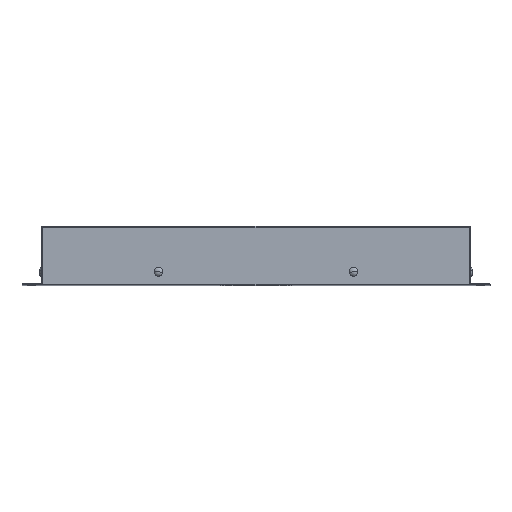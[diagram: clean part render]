
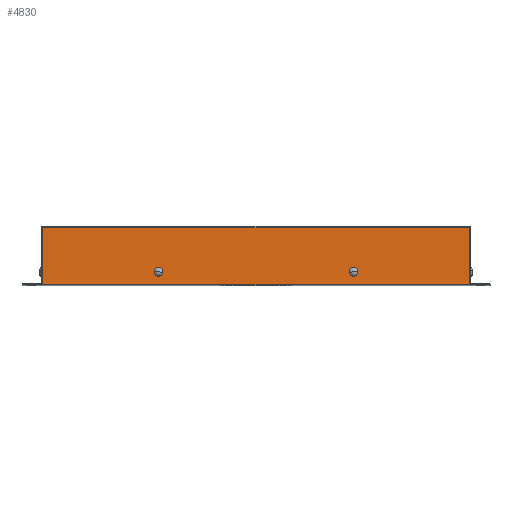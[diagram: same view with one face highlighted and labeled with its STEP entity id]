
A CAD part, top view. The second image highlights one B-rep face of the part: STEP entity #4830.
In plain terms, the highlighted planar face has unit normal (0, 0, 1).
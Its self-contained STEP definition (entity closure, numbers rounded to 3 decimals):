
#118 = DIRECTION ( 'NONE',  ( -0.188, 0.982, 0. ) ) ;
#123 = DIRECTION ( 'NONE',  ( 0., 0., 1. ) ) ;
#126 = CARTESIAN_POINT ( 'NONE',  ( -164., 0., 265. ) ) ;
#163 = VECTOR ( 'NONE', #4672, 1000. ) ;
#165 = CARTESIAN_POINT ( 'NONE',  ( 75., 10., 265. ) ) ;
#205 = LINE ( 'NONE', #4687, #163 ) ;
#206 = ORIENTED_EDGE ( 'NONE', *, *, #313, .F. ) ;
#227 = CARTESIAN_POINT ( 'NONE',  ( -165., 0., 265. ) ) ;
#239 = ORIENTED_EDGE ( 'NONE', *, *, #1805, .T. ) ;
#313 = EDGE_CURVE ( 'NONE', #4732, #4707, #3110, .T. ) ;
#325 = DIRECTION ( 'NONE',  ( 0., -1., 0. ) ) ;
#328 = PLANE ( 'NONE',  #2709 ) ;
#381 = DIRECTION ( 'NONE',  ( 0., 0., 1. ) ) ;
#415 = CARTESIAN_POINT ( 'NONE',  ( -165., 0., 265. ) ) ;
#820 = DIRECTION ( 'NONE',  ( -0.188, -0.982, 0. ) ) ;
#848 = DIRECTION ( 'NONE',  ( 0., 0., 1. ) ) ;
#886 = CARTESIAN_POINT ( 'NONE',  ( -75., 10., 265. ) ) ;
#1048 = CARTESIAN_POINT ( 'NONE',  ( -75.649, 6.612, 265. ) ) ;
#1193 = CARTESIAN_POINT ( 'NONE',  ( -74.351, 13.388, 265. ) ) ;
#1198 = VERTEX_POINT ( 'NONE', #2826 ) ;
#1337 = CARTESIAN_POINT ( 'NONE',  ( 74.351, 13.388, 265. ) ) ;
#1354 = EDGE_CURVE ( 'NONE', #5539, #3666, #205, .T. ) ;
#1688 = EDGE_CURVE ( 'NONE', #4707, #4732, #5762, .T. ) ;
#1762 = EDGE_CURVE ( 'NONE', #1198, #3451, #5694, .T. ) ;
#1784 = EDGE_CURVE ( 'NONE', #3666, #5949, #5656, .T. ) ;
#1795 = ORIENTED_EDGE ( 'NONE', *, *, #1688, .F. ) ;
#1805 = EDGE_CURVE ( 'NONE', #5949, #2235, #5619, .T. ) ;
#1894 = EDGE_CURVE ( 'NONE', #2235, #5539, #5568, .T. ) ;
#1986 = CARTESIAN_POINT ( 'NONE',  ( 164., 0., 265. ) ) ;
#1990 = FACE_BOUND ( 'NONE', #3721, .T. ) ;
#1993 = FACE_OUTER_BOUND ( 'NONE', #4631, .T. ) ;
#1999 = FACE_BOUND ( 'NONE', #4164, .T. ) ;
#2190 = DIRECTION ( 'NONE',  ( 1., 0., 0. ) ) ;
#2235 = VERTEX_POINT ( 'NONE', #3347 ) ;
#2709 = AXIS2_PLACEMENT_3D ( 'NONE', #415, #381, #325 ) ;
#2826 = CARTESIAN_POINT ( 'NONE',  ( 75.649, 6.612, 265. ) ) ;
#2937 = CARTESIAN_POINT ( 'NONE',  ( 164., 0., 265. ) ) ;
#3110 = CIRCLE ( 'NONE', #5459, 3.45 ) ;
#3287 = ORIENTED_EDGE ( 'NONE', *, *, #1354, .T. ) ;
#3347 = CARTESIAN_POINT ( 'NONE',  ( 164., 44., 265. ) ) ;
#3429 = CIRCLE ( 'NONE', #4378, 3.45 ) ;
#3451 = VERTEX_POINT ( 'NONE', #1337 ) ;
#3592 = AXIS2_PLACEMENT_3D ( 'NONE', #886, #848, #820 ) ;
#3666 = VERTEX_POINT ( 'NONE', #126 ) ;
#3721 = EDGE_LOOP ( 'NONE', ( #206, #1795 ) ) ;
#3786 = DIRECTION ( 'NONE',  ( -1., 0., 0. ) ) ;
#3864 = DIRECTION ( 'NONE',  ( -0.188, 0.982, 0. ) ) ;
#3872 = DIRECTION ( 'NONE',  ( 0., 0., 1. ) ) ;
#3891 = CARTESIAN_POINT ( 'NONE',  ( 75., 10., 265. ) ) ;
#4164 = EDGE_LOOP ( 'NONE', ( #4884, #4442 ) ) ;
#4330 = EDGE_CURVE ( 'NONE', #3451, #1198, #3429, .T. ) ;
#4370 = DIRECTION ( 'NONE',  ( 0., 1., 0. ) ) ;
#4375 = DIRECTION ( 'NONE',  ( -0.188, -0.982, 0. ) ) ;
#4378 = AXIS2_PLACEMENT_3D ( 'NONE', #3891, #3872, #3864 ) ;
#4380 = DIRECTION ( 'NONE',  ( 0., 0., 1. ) ) ;
#4395 = CARTESIAN_POINT ( 'NONE',  ( -75., 10., 265. ) ) ;
#4442 = ORIENTED_EDGE ( 'NONE', *, *, #1762, .F. ) ;
#4631 = EDGE_LOOP ( 'NONE', ( #5390, #239, #5478, #3287 ) ) ;
#4672 = DIRECTION ( 'NONE',  ( 0., -1., 0. ) ) ;
#4687 = CARTESIAN_POINT ( 'NONE',  ( -164., 0., 265. ) ) ;
#4707 = VERTEX_POINT ( 'NONE', #1193 ) ;
#4732 = VERTEX_POINT ( 'NONE', #1048 ) ;
#4830 = ADVANCED_FACE ( 'NONE', ( #1999, #1990, #1993 ), #328, .T. ) ;
#4884 = ORIENTED_EDGE ( 'NONE', *, *, #4330, .F. ) ;
#4944 = CARTESIAN_POINT ( 'NONE',  ( -164., 44., 265. ) ) ;
#5390 = ORIENTED_EDGE ( 'NONE', *, *, #1784, .T. ) ;
#5459 = AXIS2_PLACEMENT_3D ( 'NONE', #4395, #4380, #4375 ) ;
#5478 = ORIENTED_EDGE ( 'NONE', *, *, #1894, .T. ) ;
#5539 = VERTEX_POINT ( 'NONE', #4944 ) ;
#5550 = VECTOR ( 'NONE', #3786, 1000. ) ;
#5568 = LINE ( 'NONE', #5614, #5550 ) ;
#5609 = VECTOR ( 'NONE', #4370, 1000. ) ;
#5614 = CARTESIAN_POINT ( 'NONE',  ( -165., 44., 265. ) ) ;
#5619 = LINE ( 'NONE', #1986, #5609 ) ;
#5651 = VECTOR ( 'NONE', #2190, 1000. ) ;
#5656 = LINE ( 'NONE', #227, #5651 ) ;
#5694 = CIRCLE ( 'NONE', #5893, 3.45 ) ;
#5762 = CIRCLE ( 'NONE', #3592, 3.45 ) ;
#5893 = AXIS2_PLACEMENT_3D ( 'NONE', #165, #123, #118 ) ;
#5949 = VERTEX_POINT ( 'NONE', #2937 ) ;
